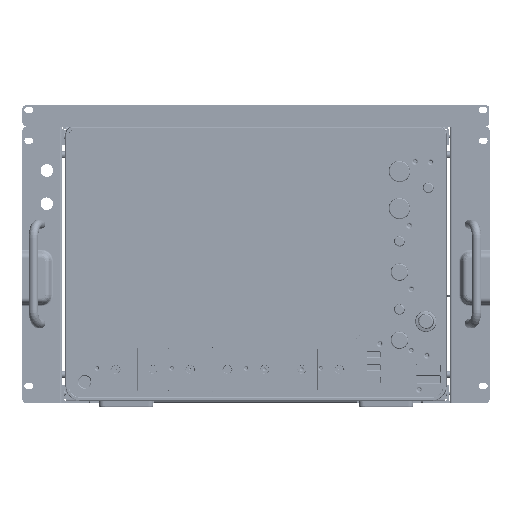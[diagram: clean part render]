
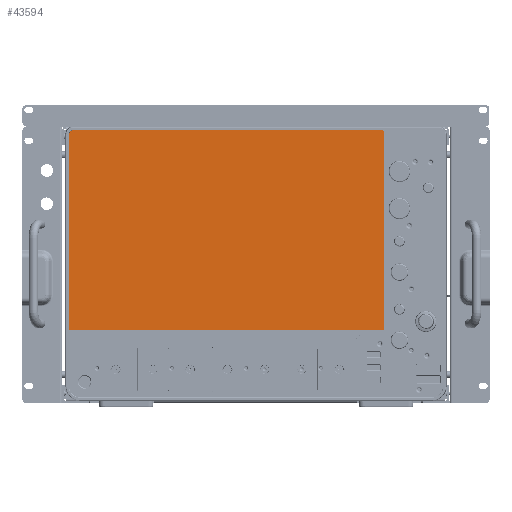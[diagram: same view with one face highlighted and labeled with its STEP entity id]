
A CAD part, front view. The second image highlights one B-rep face of the part: STEP entity #43594.
In plain terms, the highlighted planar face has unit normal (0, -1, 0).
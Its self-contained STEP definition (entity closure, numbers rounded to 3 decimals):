
#33267=DIRECTION('',(0.,0.,1.));
#33268=VECTOR('',#33267,199.54);
#33269=CARTESIAN_POINT('',(-191.148,1.95,
73.96));
#33270=LINE('',#33269,#33268);
#33271=CARTESIAN_POINT('',(-187.5,1.95,273.5));
#33272=DIRECTION('',(0.,1.,0.));
#33273=DIRECTION('',(-1.,0.,0.));
#33274=AXIS2_PLACEMENT_3D('',#33271,#33272,#33273);
#33276=DIRECTION('',(-1.,0.,0.));
#33277=VECTOR('',#33276,316.645);
#33278=CARTESIAN_POINT('',(129.145,1.95,277.148));
#33279=LINE('',#33278,#33277);
#34581=DIRECTION('',(1.,0.,0.));
#34582=VECTOR('',#34581,318.705);
#34583=CARTESIAN_POINT('',(-189.561,1.95,
72.375));
#34584=LINE('',#34583,#34582);
#34589=CARTESIAN_POINT('',(129.144,1.95,72.375));
#34590=CARTESIAN_POINT('',(129.672,1.95,72.375));
#34591=CARTESIAN_POINT('',(130.33,1.95,72.775));
#34592=CARTESIAN_POINT('',(130.73,1.95,73.433));
#34593=CARTESIAN_POINT('',(130.73,1.95,73.961));
#34605=DIRECTION('',(0.,0.,1.));
#34606=VECTOR('',#34605,201.6);
#34607=CARTESIAN_POINT('',(130.73,1.95,73.961));
#34608=LINE('',#34607,#34606);
#34617=CARTESIAN_POINT('',(130.73,1.95,275.561));
#34618=CARTESIAN_POINT('',(130.73,1.95,275.779));
#34619=CARTESIAN_POINT('',(130.647,1.95,276.18));
#34620=CARTESIAN_POINT('',(130.296,1.95,276.714));
#34621=CARTESIAN_POINT('',(129.762,1.95,277.065));
#34622=CARTESIAN_POINT('',(129.362,1.95,277.148));
#34623=CARTESIAN_POINT('',(129.145,1.95,277.148));
#34641=CARTESIAN_POINT('',(-191.148,1.95,73.96));
#34642=CARTESIAN_POINT('',(-191.148,1.95,73.432));
#34643=CARTESIAN_POINT('',(-190.747,1.95,72.775));
#34644=CARTESIAN_POINT('',(-190.09,1.95,72.375));
#34645=CARTESIAN_POINT('',(-189.561,1.95,72.375));
#40314=CARTESIAN_POINT('',(-191.148,1.95,
73.96));
#40316=VERTEX_POINT('',#40314);
#40319=CARTESIAN_POINT('',(129.145,1.95,277.148));
#40320=CARTESIAN_POINT('',(-187.5,1.95,
277.148));
#40321=VERTEX_POINT('',#40319);
#40322=VERTEX_POINT('',#40320);
#40323=VERTEX_POINT('',#34617);
#40324=CARTESIAN_POINT('',(130.73,1.95,73.961));
#40325=VERTEX_POINT('',#40324);
#40326=CARTESIAN_POINT('',(-189.561,1.95,
72.375));
#40327=CARTESIAN_POINT('',(129.144,1.95,72.375));
#40328=VERTEX_POINT('',#40326);
#40329=VERTEX_POINT('',#40327);
#40330=CARTESIAN_POINT('',(-191.148,1.95,
273.5));
#40331=VERTEX_POINT('',#40330);
#43572=CARTESIAN_POINT('',(-30.209,1.95,174.761));
#43573=DIRECTION('',(0.,1.,0.));
#43574=DIRECTION('',(-1.,0.,0.));
#43575=AXIS2_PLACEMENT_3D('',#43572,#43573,#43574);
#43576=PLANE('',#43575);
#43578=ORIENTED_EDGE('',*,*,#43577,.F.);
#43580=ORIENTED_EDGE('',*,*,#43579,.F.);
#43582=ORIENTED_EDGE('',*,*,#43581,.F.);
#43584=ORIENTED_EDGE('',*,*,#43583,.F.);
#43586=ORIENTED_EDGE('',*,*,#43585,.F.);
#43588=ORIENTED_EDGE('',*,*,#43587,.F.);
#43589=ORIENTED_EDGE('',*,*,#43552,.T.);
#43591=ORIENTED_EDGE('',*,*,#43590,.T.);
#43592=EDGE_LOOP('',(#43578,#43580,#43582,#43584,#43586,#43588,#43589,#43591));
#43593=FACE_OUTER_BOUND('',#43592,.F.);
#43594=ADVANCED_FACE('',(#43593),#43576,.F.);
#33275=CIRCLE('',#33274,3.648);
#34594=B_SPLINE_CURVE_WITH_KNOTS('',3,(#34589,#34590,#34591,#34592,#34593),
.UNSPECIFIED.,.F.,.F.,(4,1,4),(0.,0.5,1.),.UNSPECIFIED.);
#34624=B_SPLINE_CURVE_WITH_KNOTS('',3,(#34617,#34618,#34619,#34620,#34621,
#34622,#34623),.UNSPECIFIED.,.F.,.F.,(4,1,1,1,4),(0.,0.25,0.5,0.75,
1.),.UNSPECIFIED.);
#34646=B_SPLINE_CURVE_WITH_KNOTS('',3,(#34641,#34642,#34643,#34644,#34645),
.UNSPECIFIED.,.F.,.F.,(4,1,4),(0.,0.5,1.),.UNSPECIFIED.);
#43552=EDGE_CURVE('',#40316,#40331,#33270,.T.);
#43577=EDGE_CURVE('',#40321,#40322,#33279,.T.);
#43579=EDGE_CURVE('',#40323,#40321,#34624,.T.);
#43581=EDGE_CURVE('',#40325,#40323,#34608,.T.);
#43583=EDGE_CURVE('',#40329,#40325,#34594,.T.);
#43585=EDGE_CURVE('',#40328,#40329,#34584,.T.);
#43587=EDGE_CURVE('',#40316,#40328,#34646,.T.);
#43590=EDGE_CURVE('',#40331,#40322,#33275,.T.);
